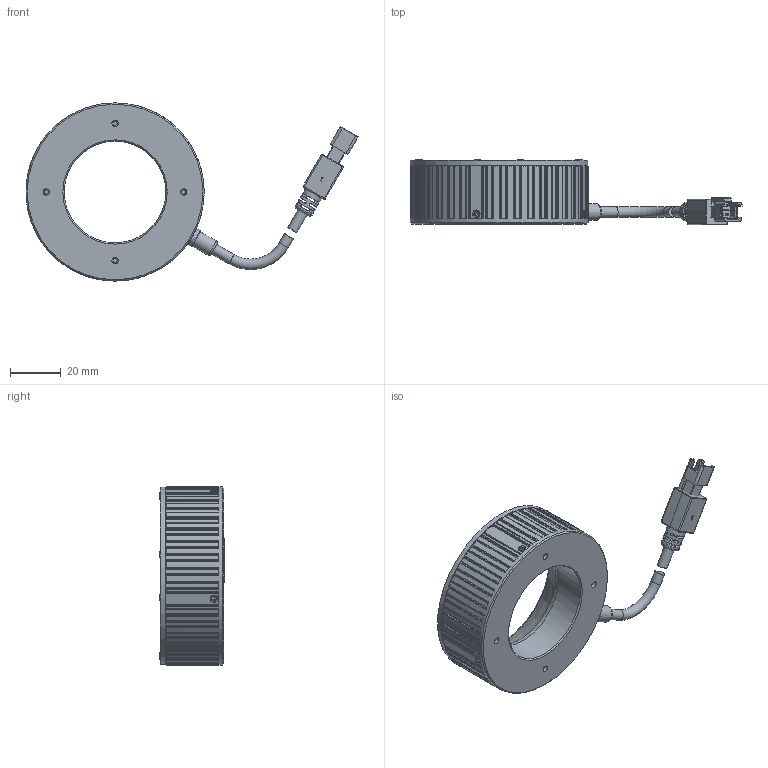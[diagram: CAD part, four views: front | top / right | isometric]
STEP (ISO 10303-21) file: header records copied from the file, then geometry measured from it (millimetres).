
FILE_DESCRIPTION (( 'STEP AP203' ), '1' );
FILE_NAME ('OPT-IRI7060-IR-V1.0U尨砩芞.STEP', '2024-12-17T06:34:46', ( '' ), ( '' ), 'SwSTEP 2.0', 'SolidWorks 2016', '' );
FILE_SCHEMA (( 'CONFIG_CONTROL_DESIGN' ));
Length unit declared in the file: millimetre
Products named in the file (1): OPT-IRI7060-IR-V1.0U尨砩芞
Bounding box: 130.49 x 25.85 x 70 mm (x, y, z)
Surface area: 27491.6 mm2 (no closed solid volume)
Topology: 0 solids, 12 shells, 752 faces, 2065 edges, 1342 vertices
Faces by surface type: plane 371, cylinder 269, cone 85, bspline 15, torus 12
Full cylindrical faces by diameter (mm): 1.1 x4, 1.4 x8, 1.8 x4, 2 x4, 2.2 x4, 2.5 x4, 2.6 x4, 4.1 x3, 5.8 x1, 6.5 x1, 7 x1, 7.5 x1, 40 x1, 42 x1, 62 x1, 66 x1, 70 x2
Entity records: 24728 total; most frequent: CARTESIAN_POINT 6634, ORIENTED_EDGE 3794, DIRECTION 3526, EDGE_CURVE 1936, VERTEX_POINT 1308, AXIS2_PLACEMENT_3D 1266, VECTOR 994, LINE 994
